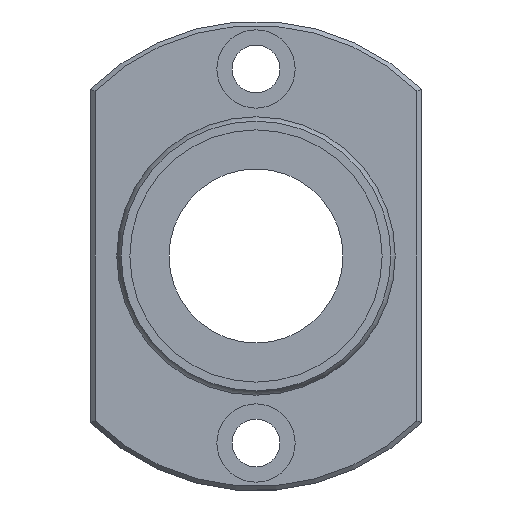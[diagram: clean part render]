
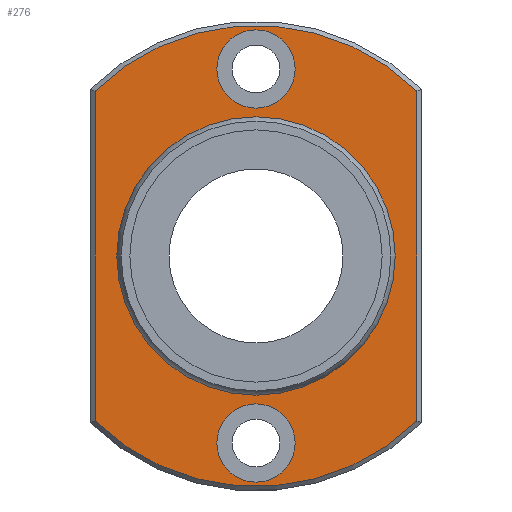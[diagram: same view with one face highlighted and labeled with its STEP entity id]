
A CAD part, left-side view. The second image highlights one B-rep face of the part: STEP entity #276.
In plain terms, the highlighted planar face has unit normal (-1, 0, 0).
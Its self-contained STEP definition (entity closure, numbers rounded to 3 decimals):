
#59=CARTESIAN_POINT('',(36.,-18.5,18.974));
#60=VERTEX_POINT('',#59);
#68=CARTESIAN_POINT('',(36.,-18.5,-18.974));
#69=VERTEX_POINT('',#68);
#70=CARTESIAN_POINT('',(36.,-18.5,18.974));
#71=DIRECTION('',(0.0,0.0,-1.0));
#72=VECTOR('',#71,37.947);
#73=LINE('',#70,#72);
#74=EDGE_CURVE('',#60,#69,#73,.T.);
#101=CARTESIAN_POINT('',(36.,18.5,-18.974));
#102=VERTEX_POINT('',#101);
#103=CARTESIAN_POINT('',(36.,0.0,0.0));
#104=DIRECTION('',(1.0,0.0,0.0));
#105=DIRECTION('',(0.0,0.0,-1.0));
#106=AXIS2_PLACEMENT_3D('',#103,#104,#105);
#107=CIRCLE('',#106,26.5);
#108=EDGE_CURVE('',#69,#102,#107,.T.);
#134=CARTESIAN_POINT('',(36.,18.5,18.974));
#135=VERTEX_POINT('',#134);
#136=CARTESIAN_POINT('',(36.,18.5,-18.974));
#137=DIRECTION('',(0.0,0.0,1.0));
#138=VECTOR('',#137,37.947);
#139=LINE('',#136,#138);
#140=EDGE_CURVE('',#102,#135,#139,.T.);
#165=CARTESIAN_POINT('',(36.,0.0,0.0));
#166=DIRECTION('',(1.0,0.0,0.0));
#167=DIRECTION('',(0.0,0.0,1.0));
#168=AXIS2_PLACEMENT_3D('',#165,#166,#167);
#169=CIRCLE('',#168,26.5);
#170=EDGE_CURVE('',#135,#60,#169,.T.);
#232=CARTESIAN_POINT('',(36.,0.0,21.387));
#233=DIRECTION('',(-1.0,0.0,0.0));
#234=DIRECTION('',(0.0,0.0,1.0));
#235=AXIS2_PLACEMENT_3D('',#232,#233,#234);
#236=PLANE('',#235);
#237=ORIENTED_EDGE('',*,*,#74,.F.);
#238=ORIENTED_EDGE('',*,*,#170,.F.);
#239=ORIENTED_EDGE('',*,*,#140,.F.);
#240=ORIENTED_EDGE('',*,*,#108,.F.);
#241=EDGE_LOOP('',(#237,#238,#239,#240));
#242=FACE_OUTER_BOUND('',#241,.T.);
#243=CARTESIAN_POINT('',(36.,0.0,15.773));
#244=VERTEX_POINT('',#243);
#245=CARTESIAN_POINT('',(36.,0.0,0.0));
#246=DIRECTION('',(-1.0,0.0,0.0));
#247=DIRECTION('',(0.0,0.0,1.0));
#248=AXIS2_PLACEMENT_3D('',#245,#246,#247);
#249=CIRCLE('',#248,15.773);
#250=EDGE_CURVE('',#244,#244,#249,.T.);
#251=ORIENTED_EDGE('',*,*,#250,.F.);
#252=EDGE_LOOP('',(#251));
#253=FACE_BOUND('',#252,.T.);
#254=CARTESIAN_POINT('',(36.0,4.5,-21.5));
#255=VERTEX_POINT('',#254);
#256=CARTESIAN_POINT('',(36.,0.,-21.5));
#257=DIRECTION('',(1.0,0.0,0.0));
#258=DIRECTION('',(0.0,1.0,0.0));
#259=AXIS2_PLACEMENT_3D('',#256,#257,#258);
#260=CIRCLE('',#259,4.5);
#261=EDGE_CURVE('',#255,#255,#260,.T.);
#262=ORIENTED_EDGE('',*,*,#261,.T.);
#263=EDGE_LOOP('',(#262));
#264=FACE_BOUND('',#263,.T.);
#265=CARTESIAN_POINT('',(36.0,4.5,21.5));
#266=VERTEX_POINT('',#265);
#267=CARTESIAN_POINT('',(36.,0.,21.5));
#268=DIRECTION('',(1.0,0.0,0.0));
#269=DIRECTION('',(0.0,1.0,0.0));
#270=AXIS2_PLACEMENT_3D('',#267,#268,#269);
#271=CIRCLE('',#270,4.5);
#272=EDGE_CURVE('',#266,#266,#271,.T.);
#273=ORIENTED_EDGE('',*,*,#272,.T.);
#274=EDGE_LOOP('',(#273));
#275=FACE_BOUND('',#274,.T.);
#276=ADVANCED_FACE('',(#242,#253,#264,#275),#236,.T.);
